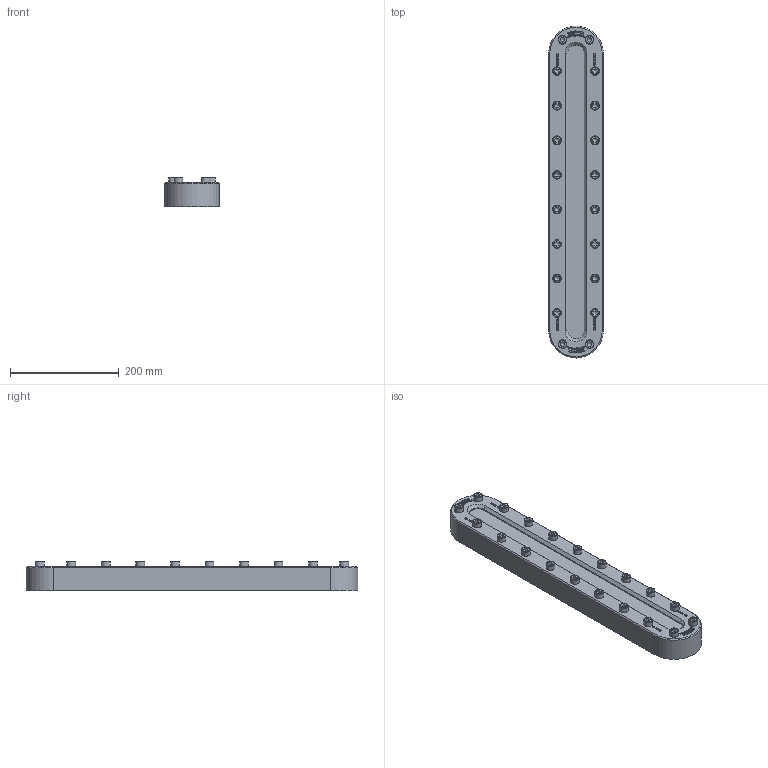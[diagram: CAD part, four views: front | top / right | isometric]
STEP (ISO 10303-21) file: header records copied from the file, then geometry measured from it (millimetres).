
FILE_DESCRIPTION(/* description */ (''),/* implementation_level */ '2;1');
FILE_NAME(/* name */ 'W:\Konstruktion_ACI\336\STEP\ACI-336-610.stp',/* time_stamp */ '2022-03-08T13:45:33+01:00',/* author */ ('Travnicek'),/* organization */ ('ACI Industriearmaturen'),/* preprocessor_version */ 'ST-DEVELOPER v16.1',/* originating_system */ 'Autodesk Inventor 2016',/* authorisation */ '');
FILE_SCHEMA (('AUTOMOTIVE_DESIGN { 1 0 10303 214 3 1 1 }'));
Length unit declared in the file: centimetre
Products named in the file (1): 336-ZB
Bounding box: 100 x 610 x 54.9 mm (x, y, z)
Volume: 2235603.9 mm3; surface area: 215507.6 mm2
Topology: 1 solids, 1 shells, 1470 faces, 4010 edges, 2664 vertices
Faces by surface type: plane 964, bspline 436, cylinder 26, cone 24, torus 20
Full cylindrical faces by diameter (mm): 16 x20
Entity records: 48828 total; most frequent: CARTESIAN_POINT 13913, ORIENTED_EDGE 7820, DIRECTION 5064, EDGE_CURVE 3910, LINE 2842, VECTOR 2842, VERTEX_POINT 2624, EDGE_LOOP 1652
